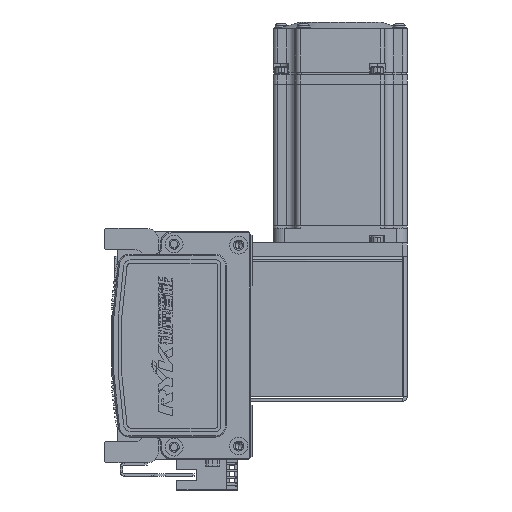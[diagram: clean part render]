
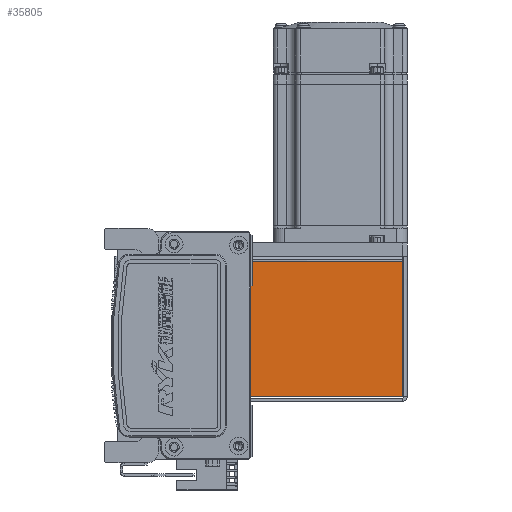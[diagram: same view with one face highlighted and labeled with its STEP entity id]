
A CAD part, left-side view. The second image highlights one B-rep face of the part: STEP entity #35805.
In plain terms, the highlighted planar face has unit normal (-1, 0, 0) as drawn and (0, 0, 1) by its records, which use the part's own axes.
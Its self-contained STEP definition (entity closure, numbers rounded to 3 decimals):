
#919 = ORIENTED_EDGE ( 'NONE', *, *, #36033, .F. ) ;
#2570 = VECTOR ( 'NONE', #39193, 1000. ) ;
#3424 = VECTOR ( 'NONE', #34105, 1000. ) ;
#4960 = LINE ( 'NONE', #13238, #33441 ) ;
#6780 = LINE ( 'NONE', #25450, #15209 ) ;
#7489 = PLANE ( 'NONE',  #39654 ) ;
#9533 = EDGE_CURVE ( 'NONE', #46414, #42551, #4960, .T. ) ;
#13238 = CARTESIAN_POINT ( 'NONE',  ( -32.5, 0.737, 35. ) ) ;
#13579 = ORIENTED_EDGE ( 'NONE', *, *, #9533, .F. ) ;
#15209 = VECTOR ( 'NONE', #58569, 1000. ) ;
#16425 = CARTESIAN_POINT ( 'NONE',  ( -30.293, 72.5, 35. ) ) ;
#17844 = CARTESIAN_POINT ( 'NONE',  ( 0., 0., 35. ) ) ;
#25450 = CARTESIAN_POINT ( 'NONE',  ( 0., 72.5, 35. ) ) ;
#27855 = CARTESIAN_POINT ( 'NONE',  ( 30.263, 0.737, 35. ) ) ;
#28248 = CARTESIAN_POINT ( 'NONE',  ( 30.263, 0.737, 35. ) ) ;
#28695 = ORIENTED_EDGE ( 'NONE', *, *, #39528, .T. ) ;
#31850 = LINE ( 'NONE', #54847, #3424 ) ;
#33441 = VECTOR ( 'NONE', #34492, 1000. ) ;
#34105 = DIRECTION ( 'NONE',  ( 0., 1., 0. ) ) ;
#34492 = DIRECTION ( 'NONE',  ( -1., 0., 0. ) ) ;
#35805 = ADVANCED_FACE ( 'NONE', ( #41901 ), #7489, .F. ) ;
#36033 = EDGE_CURVE ( 'NONE', #42551, #36976, #31850, .T. ) ;
#36051 = EDGE_CURVE ( 'NONE', #46414, #37685, #51045, .T. ) ;
#36976 = VERTEX_POINT ( 'NONE', #16425 ) ;
#37685 = VERTEX_POINT ( 'NONE', #67100 ) ;
#38589 = CARTESIAN_POINT ( 'NONE',  ( -30.293, 0.737, 35. ) ) ;
#39193 = DIRECTION ( 'NONE',  ( 0., 1., 0. ) ) ;
#39528 = EDGE_CURVE ( 'NONE', #37685, #36976, #6780, .T. ) ;
#39654 = AXIS2_PLACEMENT_3D ( 'NONE', #17844, #60829, #66166 ) ;
#41901 = FACE_OUTER_BOUND ( 'NONE', #54276, .T. ) ;
#42551 = VERTEX_POINT ( 'NONE', #38589 ) ;
#46414 = VERTEX_POINT ( 'NONE', #27855 ) ;
#51045 = LINE ( 'NONE', #28248, #2570 ) ;
#54276 = EDGE_LOOP ( 'NONE', ( #66582, #28695, #919, #13579 ) ) ;
#54847 = CARTESIAN_POINT ( 'NONE',  ( -30.293, 0., 35. ) ) ;
#58569 = DIRECTION ( 'NONE',  ( -1., 0., 0. ) ) ;
#60829 = DIRECTION ( 'NONE',  ( 0., 0., -1. ) ) ;
#66166 = DIRECTION ( 'NONE',  ( -1., 0., 0. ) ) ;
#66582 = ORIENTED_EDGE ( 'NONE', *, *, #36051, .T. ) ;
#67100 = CARTESIAN_POINT ( 'NONE',  ( 30.263, 72.5, 35. ) ) ;
